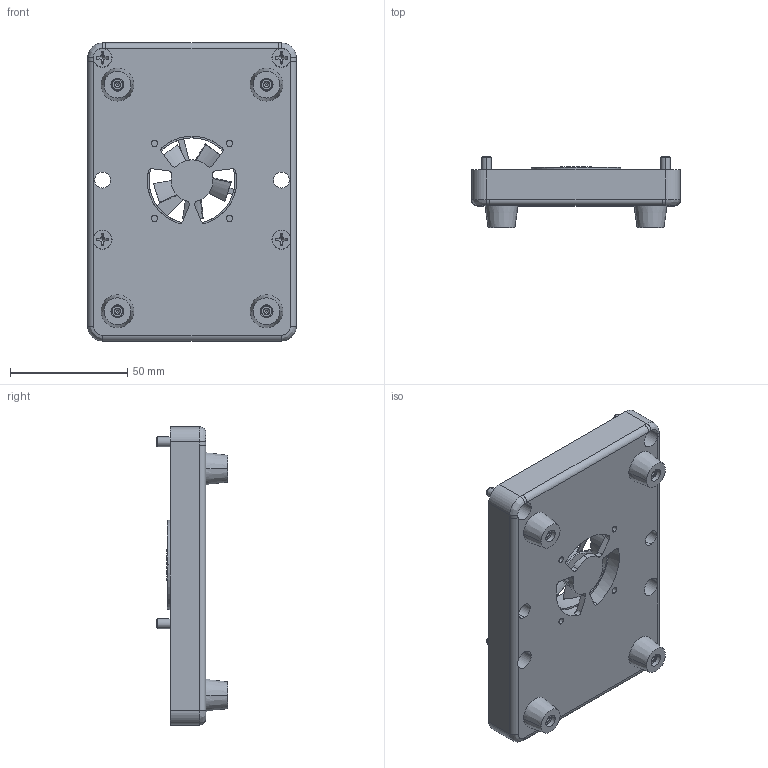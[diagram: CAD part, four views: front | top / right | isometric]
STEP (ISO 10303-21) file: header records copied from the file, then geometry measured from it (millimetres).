
FILE_DESCRIPTION (( 'STEP AP214' ), '1' );
FILE_NAME ('200-FAN.STEP', '2021-08-27T17:24:21', ( '' ), ( '' ), 'SwSTEP 2.0', 'SolidWorks 2020', '' );
FILE_SCHEMA (( 'AUTOMOTIVE_DESIGN' ));
Length unit declared in the file: inch
Products named in the file (1): 200-FAN
Bounding box: 88.9 x 30.39 x 127 mm (x, y, z)
Volume: 158703.9 mm3; surface area: 35756.2 mm2
Topology: 1 solids, 1 shells, 550 faces, 1400 edges, 889 vertices
Faces by surface type: plane 290, cone 112, cylinder 91, bspline 57
Entity records: 25793 total; most frequent: CARTESIAN_POINT 5829, ORIENTED_EDGE 2780, DIRECTION 2494, EDGE_CURVE 1390, AXIS2_PLACEMENT_3D 904, VERTEX_POINT 889, VECTOR 686, LINE 686
